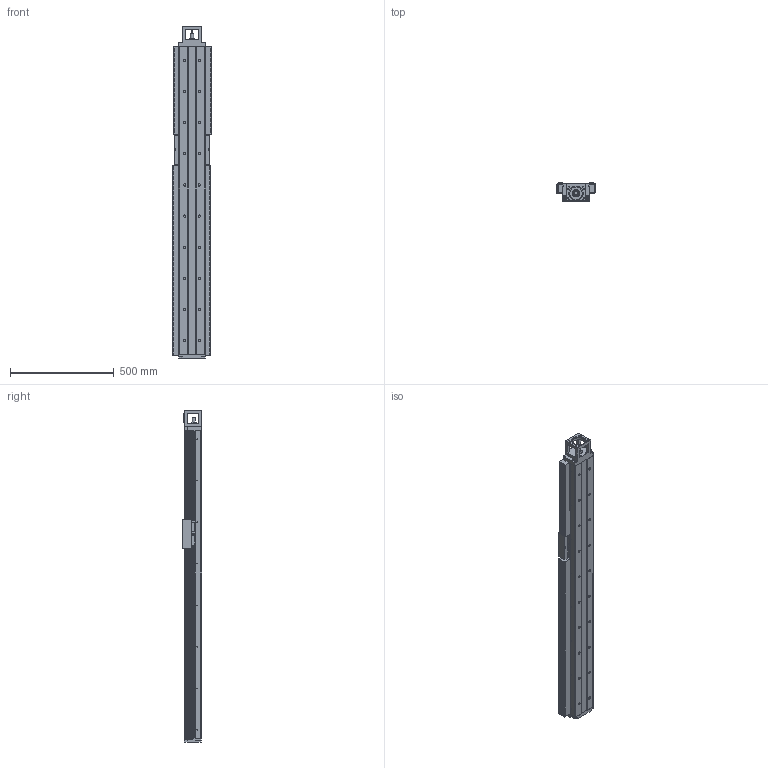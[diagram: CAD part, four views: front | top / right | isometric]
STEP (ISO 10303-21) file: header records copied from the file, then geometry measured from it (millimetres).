
FILE_DESCRIPTION(/* description */ (''),/* implementation_level */ '2;1');
FILE_NAME(/* name */ 'TKK130-1480A1F0B.stp',/* time_stamp */ '2017-01-23T08:50:54+08:00',/* author */ (''),/* organization */ (''),/* preprocessor_version */ 'ST-DEVELOPER v15',/* originating_system */ 'SIEMENS PLM Software NX 8.5',/* authorisation */ '');
FILE_SCHEMA (('AUTOMOTIVE_DESIGN { 1 0 10303 214 3 1 1 1 }'));
Products named in the file (3): 022; 011; TKK130-1480A1F0B
Assembly tree (2 placements, depth 2):
  TKK130-1480A1F0B
    011
    022
Bounding box: 184 x 92 x 1598 mm (x, y, z)
Volume: 16094021 mm3; surface area: 1880192.9 mm2
Topology: 5 solids, 46 shells, 3150 faces, 7687 edges, 4651 vertices
Faces by surface type: plane 2641, cylinder 341, cone 128, extrusion 33, bspline 6, torus 1
Full cylindrical faces by diameter (mm): 2.1 x16, 2.5 x8, 3.3 x57, 4.5 x20, 5 x23, 6.6 x10, 6.8 x12, 7 x2, 8 x16, 8.5 x4, 9 x8, 11 x28, 12 x4, 15 x1, 16.3 x1, 17 x22, 17.5 x4, 25 x1, 35 x2, 40 x3, 60.03 x1, 70.03 x1
Entity records: 87764 total; most frequent: CARTESIAN_POINT 16553, ORIENTED_EDGE 14054, DIRECTION 13832, EDGE_CURVE 7027, VECTOR 6116, LINE 6083, VERTEX_POINT 4467, AXIS2_PLACEMENT_3D 3858
